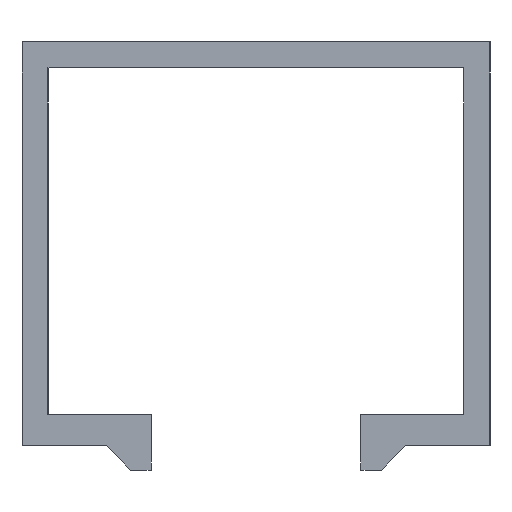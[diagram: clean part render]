
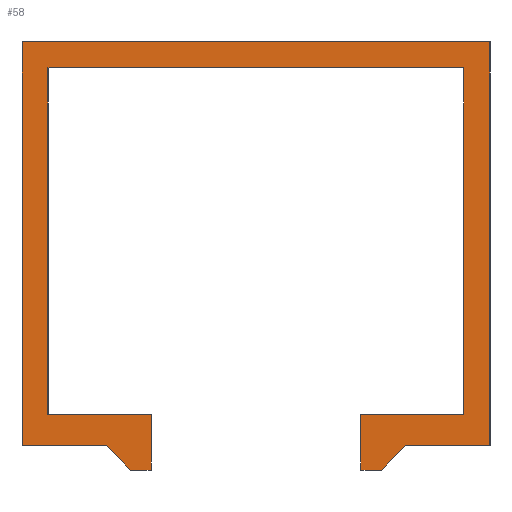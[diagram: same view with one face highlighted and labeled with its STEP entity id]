
A CAD part, left-side view. The second image highlights one B-rep face of the part: STEP entity #58.
In plain terms, the highlighted planar face has unit normal (-1, 0, 0).
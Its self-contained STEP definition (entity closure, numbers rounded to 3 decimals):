
#58 = ADVANCED_FACE( '', ( #119 ), #120, .F. );
#119 = FACE_OUTER_BOUND( '', #180, .T. );
#120 = PLANE( '', #181 );
#180 = EDGE_LOOP( '', ( #287, #288, #289, #290, #291, #292, #293, #294, #295, #296, #297, #298, #299, #300, #301, #302 ) );
#181 = AXIS2_PLACEMENT_3D( '', #303, #304, #305 );
#287 = ORIENTED_EDGE( '', *, *, #389, .F. );
#288 = ORIENTED_EDGE( '', *, *, #406, .F. );
#289 = ORIENTED_EDGE( '', *, *, #401, .F. );
#290 = ORIENTED_EDGE( '', *, *, #419, .F. );
#291 = ORIENTED_EDGE( '', *, *, #420, .F. );
#292 = ORIENTED_EDGE( '', *, *, #421, .F. );
#293 = ORIENTED_EDGE( '', *, *, #422, .F. );
#294 = ORIENTED_EDGE( '', *, *, #423, .F. );
#295 = ORIENTED_EDGE( '', *, *, #379, .F. );
#296 = ORIENTED_EDGE( '', *, *, #394, .F. );
#297 = ORIENTED_EDGE( '', *, *, #424, .F. );
#298 = ORIENTED_EDGE( '', *, *, #425, .F. );
#299 = ORIENTED_EDGE( '', *, *, #426, .F. );
#300 = ORIENTED_EDGE( '', *, *, #427, .F. );
#301 = ORIENTED_EDGE( '', *, *, #384, .F. );
#302 = ORIENTED_EDGE( '', *, *, #398, .F. );
#303 = CARTESIAN_POINT( '', ( 0., 0., 0. ) );
#304 = DIRECTION( '', ( 1., 0., 0. ) );
#305 = DIRECTION( '', ( 0., 0., -1. ) );
#379 = EDGE_CURVE( '', #445, #446, #447, .T. );
#384 = EDGE_CURVE( '', #454, #455, #456, .T. );
#389 = EDGE_CURVE( '', #463, #464, #465, .T. );
#394 = EDGE_CURVE( '', #472, #445, #473, .T. );
#398 = EDGE_CURVE( '', #464, #454, #478, .T. );
#401 = EDGE_CURVE( '', #481, #482, #483, .T. );
#406 = EDGE_CURVE( '', #482, #463, #490, .T. );
#419 = EDGE_CURVE( '', #510, #481, #511, .T. );
#420 = EDGE_CURVE( '', #512, #510, #513, .T. );
#421 = EDGE_CURVE( '', #514, #512, #515, .T. );
#422 = EDGE_CURVE( '', #516, #514, #517, .T. );
#423 = EDGE_CURVE( '', #446, #516, #518, .T. );
#424 = EDGE_CURVE( '', #519, #472, #520, .T. );
#425 = EDGE_CURVE( '', #521, #519, #522, .T. );
#426 = EDGE_CURVE( '', #523, #521, #524, .T. );
#427 = EDGE_CURVE( '', #455, #523, #525, .T. );
#445 = VERTEX_POINT( '', #543 );
#446 = VERTEX_POINT( '', #544 );
#447 = LINE( '', #545, #546 );
#454 = VERTEX_POINT( '', #556 );
#455 = VERTEX_POINT( '', #557 );
#456 = LINE( '', #558, #559 );
#463 = VERTEX_POINT( '', #569 );
#464 = VERTEX_POINT( '', #570 );
#465 = LINE( '', #571, #572 );
#472 = VERTEX_POINT( '', #582 );
#473 = LINE( '', #583, #584 );
#478 = LINE( '', #591, #592 );
#481 = VERTEX_POINT( '', #596 );
#482 = VERTEX_POINT( '', #597 );
#483 = LINE( '', #598, #599 );
#490 = LINE( '', #609, #610 );
#510 = VERTEX_POINT( '', #640 );
#511 = LINE( '', #641, #642 );
#512 = VERTEX_POINT( '', #643 );
#513 = LINE( '', #644, #645 );
#514 = VERTEX_POINT( '', #646 );
#515 = LINE( '', #647, #648 );
#516 = VERTEX_POINT( '', #649 );
#517 = LINE( '', #650, #651 );
#518 = LINE( '', #652, #653 );
#519 = VERTEX_POINT( '', #654 );
#520 = LINE( '', #655, #656 );
#521 = VERTEX_POINT( '', #657 );
#522 = LINE( '', #658, #659 );
#523 = VERTEX_POINT( '', #660 );
#524 = LINE( '', #661, #662 );
#525 = LINE( '', #663, #664 );
#543 = CARTESIAN_POINT( '', ( 0., -12., 3.2 ) );
#544 = CARTESIAN_POINT( '', ( 0., -12., 23.2 ) );
#545 = CARTESIAN_POINT( '', ( 0., -12., 3.2 ) );
#546 = VECTOR( '', #688, 1000. );
#556 = CARTESIAN_POINT( '', ( 0., -13.5, 24.7 ) );
#557 = CARTESIAN_POINT( '', ( 0., -13.5, 1.4 ) );
#558 = CARTESIAN_POINT( '', ( 0., -13.5, 24.7 ) );
#559 = VECTOR( '', #692, 1000. );
#569 = CARTESIAN_POINT( '', ( 0., 13.5, 1.4 ) );
#570 = CARTESIAN_POINT( '', ( 0., 13.5, 24.7 ) );
#571 = CARTESIAN_POINT( '', ( 0., 13.5, 1.4 ) );
#572 = VECTOR( '', #696, 1000. );
#582 = CARTESIAN_POINT( '', ( 0., -6.05, 3.2 ) );
#583 = CARTESIAN_POINT( '', ( 0., -6.05, 3.2 ) );
#584 = VECTOR( '', #700, 1000. );
#591 = CARTESIAN_POINT( '', ( 0., 13.5, 24.7 ) );
#592 = VECTOR( '', #703, 1000. );
#596 = CARTESIAN_POINT( '', ( 0., 7.25, 0. ) );
#597 = CARTESIAN_POINT( '', ( 0., 8.65, 1.4 ) );
#598 = CARTESIAN_POINT( '', ( 0., 7.25, 0. ) );
#599 = VECTOR( '', #705, 1000. );
#609 = CARTESIAN_POINT( '', ( 0., 8.65, 1.4 ) );
#610 = VECTOR( '', #709, 1000. );
#640 = CARTESIAN_POINT( '', ( 0., 6.05, 0. ) );
#641 = CARTESIAN_POINT( '', ( 0., 6.05, 0. ) );
#642 = VECTOR( '', #720, 1000. );
#643 = CARTESIAN_POINT( '', ( 0., 6.05, 3.2 ) );
#644 = CARTESIAN_POINT( '', ( 0., 6.05, 3.2 ) );
#645 = VECTOR( '', #721, 1000. );
#646 = CARTESIAN_POINT( '', ( 0., 12., 3.2 ) );
#647 = CARTESIAN_POINT( '', ( 0., 12., 3.2 ) );
#648 = VECTOR( '', #722, 1000. );
#649 = CARTESIAN_POINT( '', ( 0., 12., 23.2 ) );
#650 = CARTESIAN_POINT( '', ( 0., 12., 23.2 ) );
#651 = VECTOR( '', #723, 1000. );
#652 = CARTESIAN_POINT( '', ( 0., -12., 23.2 ) );
#653 = VECTOR( '', #724, 1000. );
#654 = CARTESIAN_POINT( '', ( 0., -6.05, 0. ) );
#655 = CARTESIAN_POINT( '', ( 0., -6.05, 0. ) );
#656 = VECTOR( '', #725, 1000. );
#657 = CARTESIAN_POINT( '', ( 0., -7.25, 0. ) );
#658 = CARTESIAN_POINT( '', ( 0., -7.25, 0. ) );
#659 = VECTOR( '', #726, 1000. );
#660 = CARTESIAN_POINT( '', ( 0., -8.65, 1.4 ) );
#661 = CARTESIAN_POINT( '', ( 0., -8.65, 1.4 ) );
#662 = VECTOR( '', #727, 1000. );
#663 = CARTESIAN_POINT( '', ( 0., -13.5, 1.4 ) );
#664 = VECTOR( '', #728, 1000. );
#688 = DIRECTION( '', ( 0., 0., 1. ) );
#692 = DIRECTION( '', ( 0., 0., -1. ) );
#696 = DIRECTION( '', ( 0., 0., 1. ) );
#700 = DIRECTION( '', ( 0., -1., 0. ) );
#703 = DIRECTION( '', ( 0., -1., 0. ) );
#705 = DIRECTION( '', ( 0., 0.707, 0.707 ) );
#709 = DIRECTION( '', ( 0., 1., 0. ) );
#720 = DIRECTION( '', ( 0., 1., 0. ) );
#721 = DIRECTION( '', ( 0., 0., -1. ) );
#722 = DIRECTION( '', ( 0., -1., 0. ) );
#723 = DIRECTION( '', ( 0., 0., -1. ) );
#724 = DIRECTION( '', ( 0., 1., 0. ) );
#725 = DIRECTION( '', ( 0., 0., 1. ) );
#726 = DIRECTION( '', ( 0., 1., 0. ) );
#727 = DIRECTION( '', ( 0., 0.707, -0.707 ) );
#728 = DIRECTION( '', ( 0., 1., 0. ) );
